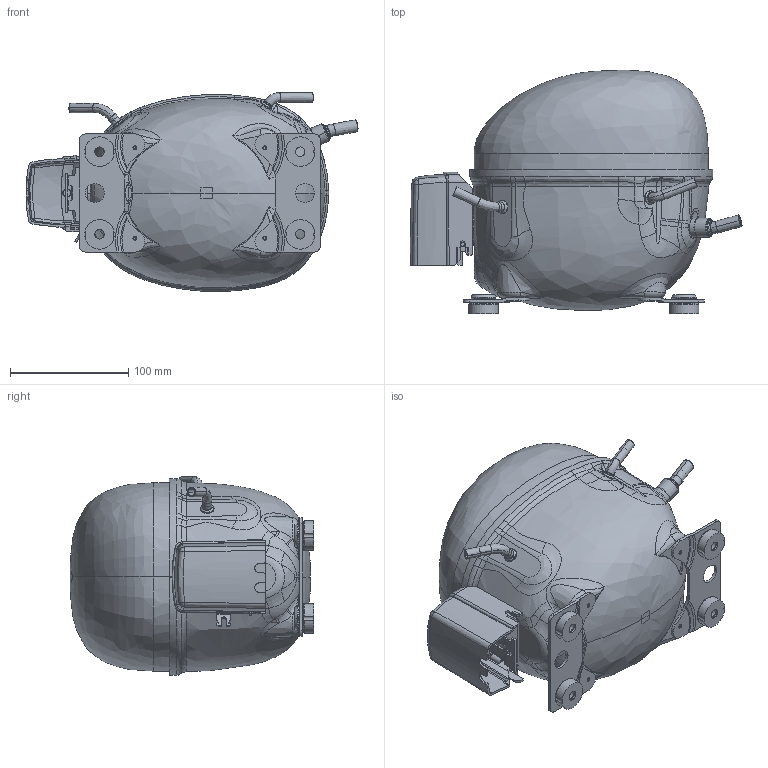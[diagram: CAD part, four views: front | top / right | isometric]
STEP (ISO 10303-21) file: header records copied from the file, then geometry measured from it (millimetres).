
FILE_DESCRIPTION((''),'2;1');
FILE_NAME('103F4195_103F4311_103F4372_ASM','2018-12-03T',('U244840'),(''),'CREO PARAMETRIC BY PTC INC, 2015380','CREO PARAMETRIC BY PTC INC, 2015380','');
FILE_SCHEMA(('CONFIG_CONTROL_DESIGN'));
Products named in the file (17): 103F4425; 103F4572; 117-3617_BODY; 117-3617_PINS; 117-3617_GLASS_FUSED; 117-3617_ASM; 102B1857_BENT_PS_AF11; 103F4949_BENT_PS_AF8; 103F4621; 102B1980_PS_BENT_AF1; 103F4644_BENT_PS_AF1_ASM; 103N0480; 103F4405_PS_BENT_103F4372_AF0_ASM; 103F4311; 118-3661; 103N2011; 103F4195_103F4311_103F4372_ASM
Assembly tree (24 placements, depth 4):
  103F4195_103F4311_103F4372_ASM
    103F4405_PS_BENT_103F4372_AF0_ASM
      103F4425
      103F4572  x2
      117-3617_ASM
        117-3617_BODY
        117-3617_PINS  x3
        117-3617_GLASS_FUSED  x3
      102B1857_BENT_PS_AF11
      103F4949_BENT_PS_AF8
      103F4644_BENT_PS_AF1_ASM
        103F4621
        102B1980_PS_BENT_AF1
      103N0480
    103F4311
    118-3661  x4
    103N2011
Bounding box: 281.21 x 206.3 x 168.28 mm (x, y, z)
Volume: 518822.6 mm3; surface area: 351321.1 mm2
Topology: 22 solids, 24 shells, 1250 faces, 3114 edges, 1895 vertices
Faces by surface type: bspline 390, cylinder 279, plane 270, torus 147, cone 111, sphere 27, revolution 16, extrusion 10
Entity records: 62228 total; most frequent: CARTESIAN_POINT 39061, ORIENTED_EDGE 5374, DIRECTION 3865, EDGE_CURVE 2689, VERTEX_POINT 1657, AXIS2_PLACEMENT_3D 1511, EDGE_LOOP 1123, B_SPLINE_CURVE_WITH_KNOTS 1103
